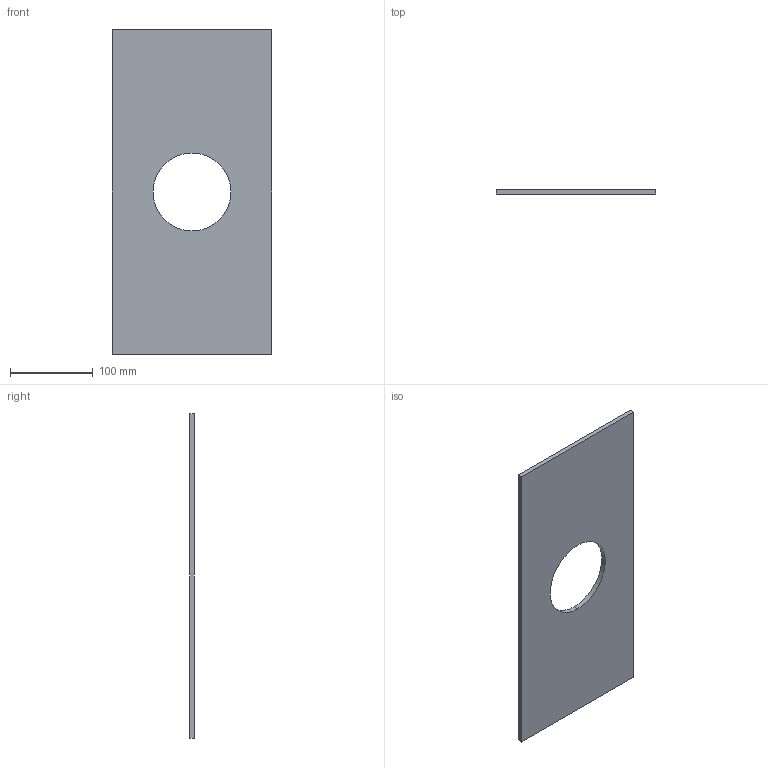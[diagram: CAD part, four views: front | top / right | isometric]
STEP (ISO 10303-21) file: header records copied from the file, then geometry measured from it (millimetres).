
FILE_DESCRIPTION (( 'STEP AP214' ), '1' );
FILE_NAME ('HTIS-B_2040-6.STEP', '2015-11-10T23:44:58', ( '' ), ( '' ), 'SwSTEP 2.0', 'SolidWorks 2014', '' );
FILE_SCHEMA (( 'AUTOMOTIVE_DESIGN' ));
Length unit declared in the file: millimetre
Products named in the file (1): HTIS-B_2040-6
Bounding box: 192 x 6 x 392 mm (x, y, z)
Volume: 409945.3 mm3; surface area: 145428.3 mm2
Topology: 1 solids, 1 shells, 8 faces, 18 edges, 12 vertices
Faces by surface type: plane 6, cylinder 2
Entity records: 264 total; most frequent: DIRECTION 40, CARTESIAN_POINT 39, ORIENTED_EDGE 36, EDGE_CURVE 18, VECTOR 14, LINE 14, AXIS2_PLACEMENT_3D 13, VERTEX_POINT 12
